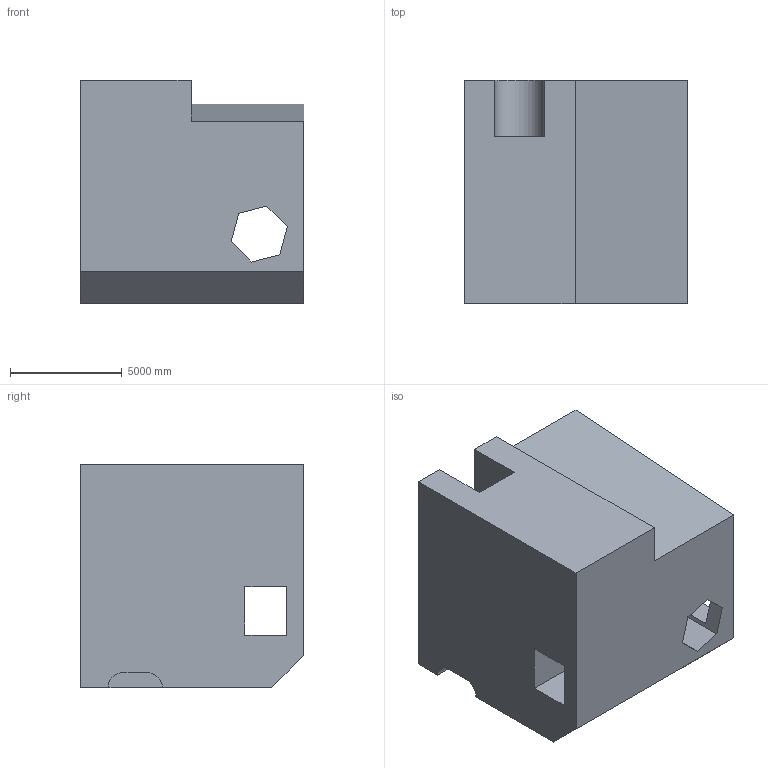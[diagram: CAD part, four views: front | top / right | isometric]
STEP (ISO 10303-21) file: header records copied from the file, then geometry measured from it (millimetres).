
FILE_DESCRIPTION (( 'STEP AP203' ), '1' );
FILE_NAME ('1552.STEP', '2022-08-18T15:45:03', ( 'user' ), ( '' ), 'SwSTEP 2.0', 'SolidWorks 2021', '' );
FILE_SCHEMA (( 'CONFIG_CONTROL_DESIGN' ));
Length unit declared in the file: centimetre
Products named in the file (1): 1552
Bounding box: 10000 x 10000 x 10000 mm (x, y, z)
Volume: 811400226030.7 mm3; surface area: 715995661.5 mm2
Topology: 1 solids, 1 shells, 31 faces, 93 edges, 62 vertices
Faces by surface type: plane 28, cylinder 3
Entity records: 1122 total; most frequent: CARTESIAN_POINT 187, ORIENTED_EDGE 186, DIRECTION 163, EDGE_CURVE 93, LINE 87, VECTOR 87, VERTEX_POINT 62, AXIS2_PLACEMENT_3D 38
